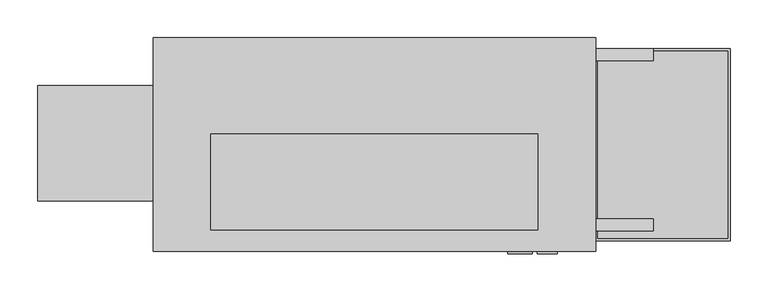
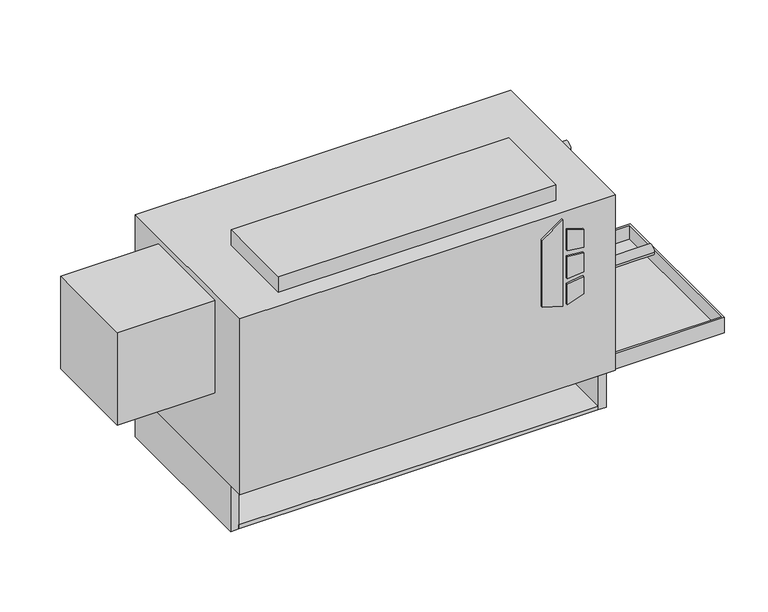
"""IFC4 building model written with IfcOpenShell, lengths in millimetres: proxy geometry, Concealed_Vertical_Low_Boy_Fan_Coil_Unit Fan_-_LHA_-_IEC_-_2-Pipe_RH_2022 : Size 02 - 277v/60Hz/1Ph - 2/1 Coil."""

from ifc_helpers import new_model, si_unit, point, frame, frame_2d, origin, origin_with_axes, place, context, project, spatial, polyline, circle_curve, trimmed, segment, composite_curve, outline, extrude, faceted_brep, source, transform, mapped, element, save


def mechanical_equipment_255caaae(model_context):
    return source(origin(), model_context, "Body", "SolidModel", [
        faceted_brep([(914.4, -252.4125, 92.075), (736.6, -252.4125, 92.075), (736.6, -506.4125, 92.075), (914.4, -506.4125, 92.075), (739.775, -255.5875, 92.075), (911.225, -255.5875, 92.075), (911.225, -503.2375, 92.075), (739.775, -503.2375, 92.075), (914.4, -252.4125, 66.675), (914.4, -506.4125, 66.675), (736.6, -506.4125, 66.675), (736.6, -252.4125, 66.675), (911.225, -255.5875, 69.8497888), (739.775, -255.5875, 69.8497888), (739.775, -503.2375, 69.8497888), (911.225, -503.2375, 69.8497888)], [[[0, 1, 2, 3], [4, 5, 6, 7]], [[8, 9, 10, 11]], [[1, 0, 8, 11]], [[2, 1, 11, 10]], [[3, 2, 10, 9]], [[0, 3, 9, 8]], [[12, 13, 14, 15]], [[13, 12, 5, 4]], [[14, 13, 4, 7]], [[15, 14, 7, 6]], [[12, 15, 6, 5]]]),
        extrude(outline(composite_curve([segment(trimmed(circle_curve(frame_2d((825.5, -379.4125)), 9.525), [point((815.975, -379.4125))], [point((835.025, -379.4125))], False, "CARTESIAN"), True, "CONTINUOUS"), segment(trimmed(circle_curve(frame_2d((825.5, -379.4125)), 9.525), [point((835.025, -379.4125))], [point((815.975, -379.4125))], False, "CARTESIAN"), True, "CONTINUOUS")], self_intersect=False)), frame((0.0, 0.0, 41.275), z_axis=(0.0, 0.0, 1.0), x_axis=(1.0, 0.0, 0.0)), (0.0, 0.0, 1.0), 25.4),
        extrude(outline(polyline([(222.6730703, 620.7868862), (212.725, 652.9602728), (354.8959244, 652.9602728), (331.8739183, 620.7868862), (222.6730703, 620.7868862)])), frame((0.0, -523.875, 0.0), z_axis=(0.0, 1.0, 0.0), x_axis=(0.0, 0.0, 1.0)), (0.0, 0.0, 1.0), 3.175),
        extrude(outline(polyline([(301.6723557, 659.7186058), (298.4699632, 685.8), (327.6988042, 685.8), (335.7632193, 659.7186058), (301.6723557, 659.7186058)])), frame((0.0, -523.875, 0.0), z_axis=(0.0, 1.0, 0.0), x_axis=(0.0, 0.0, 1.0)), (0.0, 0.0, 1.0), 3.175),
        extrude(outline(polyline([(249.8088288, 685.8), (246.1433279, 659.7186058), (212.725, 659.7186058), (221.3592372, 685.8), (249.8088288, 685.8)])), frame((0.0, -523.875, 0.0), z_axis=(0.0, 1.0, 0.0), x_axis=(0.0, 0.0, 1.0)), (0.0, 0.0, 1.0), 3.175),
        extrude(outline(polyline([(289.1239903, 685.8), (291.4058166, 659.7186058), (255.4682681, 659.7186058), (258.2095331, 685.8), (289.1239903, 685.8)])), frame((0.0, -523.875, 0.0), z_axis=(0.0, 1.0, 0.0), x_axis=(0.0, 0.0, 1.0)), (0.0, 0.0, 1.0), 3.175),
        extrude(outline(polyline([(660.4, -365.125), (660.4, -492.125), (228.6, -492.125), (228.6, -365.125), (660.4, -365.125)])), frame((0.0, 0.0, 365.125), z_axis=(0.0, 0.0, 1.0), x_axis=(1.0, 0.0, 0.0)), (0.0, 0.0, 1.0), 25.4),
        extrude(outline(polyline([(736.6, -520.7), (152.4, -520.7), (152.4, -238.125), (736.6, -238.125), (736.6, -520.7)])), frame((0.0, 0.0, 76.2), z_axis=(0.0, 0.0, 1.0), x_axis=(1.0, 0.0, 0.0)), (0.0, 0.0, 1.0), 288.925),
        extrude(outline(polyline([(723.9, -495.3), (165.1, -495.3), (165.1, -244.475), (723.9, -244.475), (723.9, -495.3)])), origin_with_axes(), (0.0, 0.0, 1.0), 6.35),
        extrude(outline(polyline([(723.9, -238.125), (723.9, -244.475), (165.1, -244.475), (165.1, -238.125), (723.9, -238.125)])), origin_with_axes(), (0.0, 0.0, 1.0), 76.2),
        extrude(outline(polyline([(736.6, -238.125), (736.6, -495.3), (723.9, -495.3), (723.9, -238.125), (736.6, -238.125)])), origin_with_axes(), (0.0, 0.0, 1.0), 76.2),
        extrude(outline(polyline([(165.1, -238.125), (165.1, -495.3), (152.4, -495.3), (152.4, -238.125), (165.1, -238.125)])), origin_with_axes(), (0.0, 0.0, 1.0), 76.2),
        extrude(outline(composite_curve([segment(trimmed(circle_curve(frame_2d((-260.35, 260.35)), 7.9375), [point((-252.4125, 260.35))], [point((-268.2875, 260.35))], False, "CARTESIAN"), True, "CONTINUOUS"), segment(trimmed(circle_curve(frame_2d((-260.35, 260.35)), 7.9375), [point((-268.2875, 260.35))], [point((-252.4125, 260.35))], False, "CARTESIAN"), True, "CONTINUOUS")], self_intersect=False)), frame((736.6, 0.0, 0.0), z_axis=(1.0, 0.0, 0.0), x_axis=(0.0, 1.0, 0.0)), (0.0, 0.0, 1.0), 76.2),
        extrude(outline(composite_curve([segment(trimmed(circle_curve(frame_2d((-485.775, 227.0125)), 7.9375), [point((-477.8375, 227.0125))], [point((-493.7125, 227.0125))], False, "CARTESIAN"), True, "CONTINUOUS"), segment(trimmed(circle_curve(frame_2d((-485.775, 227.0125)), 7.9375), [point((-493.7125, 227.0125))], [point((-477.8375, 227.0125))], False, "CARTESIAN"), True, "CONTINUOUS")], self_intersect=False)), frame((736.6, 0.0, 0.0), z_axis=(1.0, 0.0, 0.0), x_axis=(0.0, 1.0, 0.0)), (0.0, 0.0, 1.0), 76.2),
        extrude(outline(polyline([(0.0, -301.625), (152.4, -301.625), (152.4, -454.025), (0.0, -454.025), (0.0, -301.625)])), frame((0.0, 0.0, 203.5632719), z_axis=(0.0, 0.0, 1.0), x_axis=(1.0, 0.0, 0.0)), (0.0, 0.0, 1.0), 152.0367281),
    ])


if __name__ == "__main__":
    model = new_model("IFC4")
    model_context = context("Model", 3, world=origin())
    ifc_project = project(units=[si_unit("LENGTHUNIT", "METRE", prefix="MILLI")], contexts=[model_context])
    site = spatial("IfcSite", under=ifc_project)
    building = spatial("IfcBuilding", under=site)
    placement = place(None, origin())
    mechanical_equipment_shape = mechanical_equipment_255caaae(model_context)
    element("IfcBuildingElementProxy", 1, Name="Concealed_Vertical_Low_Boy_Fan_Coil_Unit Fan_-_LHA_-_IEC_-_2-Pipe_RH_2022 : Size 02 - 277v/60Hz/1Ph - 2/1 Coil", ObjectType="Concealed_Vertical_Low_Boy_Fan_Coil_Unit Fan_-_LHA_-_IEC_-_2-Pipe_RH_2022 : Size 02 - 277v/60Hz/1Ph - 2/1 Coil", at=placement, inside=building, context=model_context, shape_type="MappedRepresentation", body=[
        mapped(mechanical_equipment_shape, transform((0.0, 0.0, 0.0), x_axis=(1.0, 0.0, 0.0), y_axis=(0.0, 1.0, 0.0), z_axis=(0.0, 0.0, 1.0))),
    ])
    save(model, "model.ifc")
